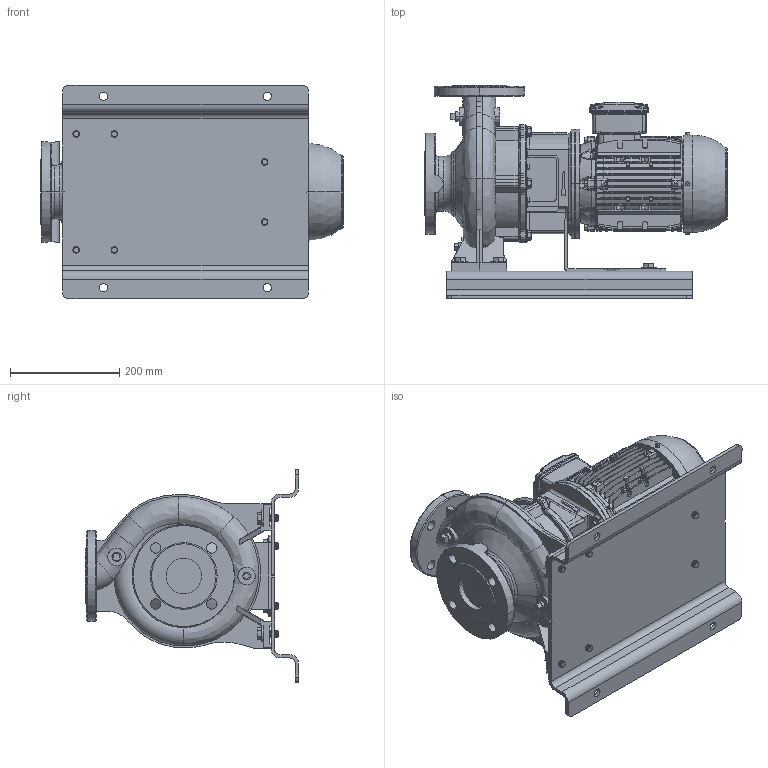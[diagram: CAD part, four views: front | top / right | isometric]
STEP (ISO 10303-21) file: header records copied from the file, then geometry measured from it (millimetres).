
FILE_DESCRIPTION (( 'STEP AP214' ), '1' );
FILE_NAME ('GSD4 50-160_1.1 & 1.5_(90SL)_W21_BP.STEP', '2024-08-12T05:38:11', ( '' ), ( '' ), 'SwSTEP 2.0', 'SolidWorks 2019', '' );
FILE_SCHEMA (( 'AUTOMOTIVE_DESIGN' ));
Length unit declared in the file: millimetre
Products named in the file (8): N3S6 GSDA-362 F1-1832902-00; Parametric bolt_SFT-A295B; 50-160-90S_L_______; CGSD1-4153; Parametric bolt_SFT-A299B; 90S_L ALIE3_W21T_B5; Parametric Flat Washer_M12; GSD4 50-160_1.1 & 1.5_(90SL)_W21_BP
Assembly tree (16 placements, depth 2):
  GSD4 50-160_1.1 & 1.5_(90SL)_W21_BP
    50-160-90S_L_______
    90S_L ALIE3_W21T_B5
    N3S6 GSDA-362 F1-1832902-00
    CGSD1-4153
    Parametric bolt_SFT-A299B  x4
    Parametric bolt_SFT-A295B  x2
    Parametric Flat Washer_M12  x6
Bounding box: 554 x 390 x 390 mm (x, y, z)
Volume: 14439532.7 mm3; surface area: 1541994.4 mm2
Topology: 18 solids, 22 shells, 3648 faces, 9604 edges, 6174 vertices
Faces by surface type: plane 1878, cylinder 1022, torus 304, bspline 255, cone 167, sphere 22
Entity records: 177455 total; most frequent: CARTESIAN_POINT 95141, ORIENTED_EDGE 17934, DIRECTION 15901, EDGE_CURVE 8967, VERTEX_POINT 5789, AXIS2_PLACEMENT_3D 5351, VECTOR 5199, LINE 5199
